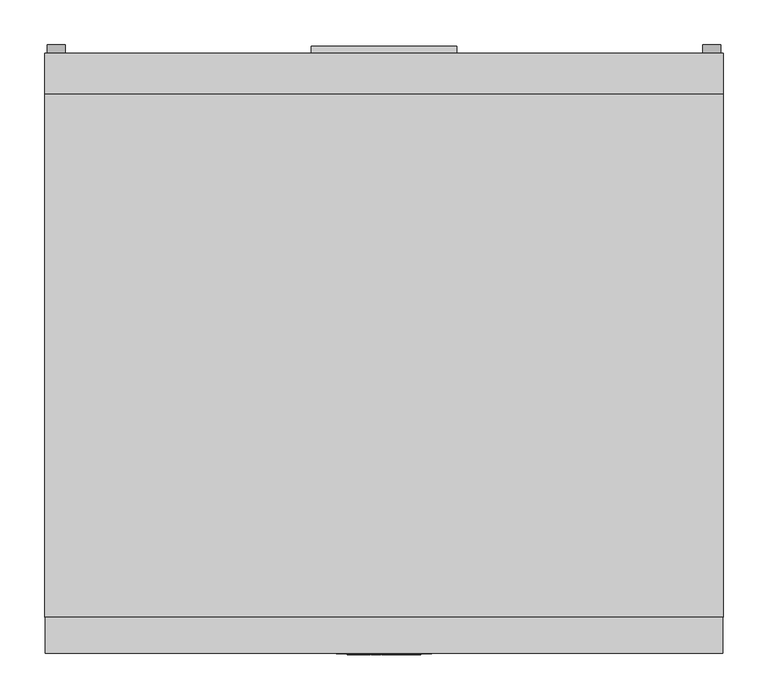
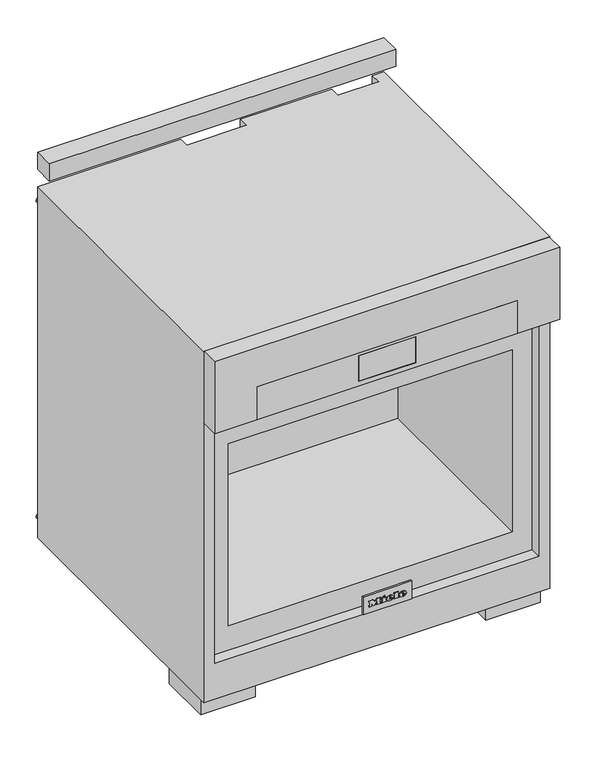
"""IFC4 building model written with IfcOpenShell, lengths in millimetres: proxy geometry, 11791530_USA_HR1724-3G_EDST-CLST : 25172481_USA_11791530_HR1724-3G_EDST-CLST."""

from ifc_helpers import new_model, si_unit, point, frame, frame_2d, origin, origin_with_axes, place, context, project, spatial, polyline, circle_curve, ellipse_curve, trimmed, segment, composite_curve, outline, extrude, faceted_brep, source, transform, mapped, element, save
from ifc_brep_helpers import plane_surface, cylinder_surface, revolved_surface, extruded_surface, advanced_brep


def specialty_equipment_942a387a(model_context):
    return source(origin(), model_context, "Body", "SolidModel", [
        faceted_brep([(380.0, -673.0, 862.0), (-380.0, -673.0, 862.0), (-380.0, -673.0, 695.0), (-287.0, -673.0, 695.0), (-287.0, -673.0, 772.0), (287.0, -673.0, 772.0), (287.0, -673.0, 695.0), (380.0, -673.0, 695.0), (380.0, -633.0, 862.0), (380.0, -633.0, 695.0), (-380.0, -633.0, 695.0), (-380.0, -633.0, 862.0), (287.0, -666.7, 695.0), (-287.0, -666.7, 695.0), (287.0, -666.7, 772.0), (-287.0, -666.7, 772.0)], [[[0, 1, 2, 3, 4, 5, 6, 7]], [[8, 9, 10, 11]], [[0, 7, 9, 8]], [[10, 9, 7, 6, 12, 13, 3, 2]], [[2, 1, 11, 10]], [[1, 0, 8, 11]], [[14, 15, 13, 12]], [[14, 12, 6, 5]], [[13, 15, 4, 3]], [[15, 14, 5, 4]]]),
        extrude(outline(polyline([(772.0, 287.0), (772.0, -287.0), (695.0, -287.0), (695.0, 287.0), (772.0, 287.0)]), holes=[polyline([(765.0, 62.5), (705.0, 62.5), (705.0, -62.5), (765.0, -62.5), (765.0, 62.5)])]), frame((0.0, -672.5, 0.0), z_axis=(0.0, 1.0, 0.0), x_axis=(0.0, 0.0, 1.0)), (0.0, 0.0, 1.0), 5.8),
        extrude(outline(polyline([(-62.5, -671.0), (62.5, -671.0), (62.5, -672.0), (-62.5, -672.0), (-62.5, -671.0)])), frame((0.0, 0.0, 705.0), z_axis=(0.0, 0.0, 1.0), x_axis=(1.0, 0.0, 0.0)), (0.0, 0.0, 1.0), 60.0),
        extrude(outline(polyline([(-254.0, -489.0), (-254.0, -609.0), (-374.0, -609.0), (-374.0, -489.0), (-254.0, -489.0)])), origin_with_axes(), (0.0, 0.0, 1.0), 45.0),
        extrude(outline(polyline([(374.0, -489.0), (374.0, -609.0), (254.0, -609.0), (254.0, -489.0), (374.0, -489.0)])), origin_with_axes(), (0.0, 0.0, 1.0), 45.0),
        extrude(outline(composite_curve([segment(trimmed(circle_curve(frame_2d((-152.0, 39.6862697)), 39.6862697), [point((-112.6710759, 45.0))], [point((-191.3289241, 45.0))], False, "CARTESIAN"), True, "CONTINUOUS"), segment(polyline([(-191.3289241, 45.0), (-112.6710759, 45.0)]), True, "CONTINUOUS")], self_intersect=False)), frame((-234.0, 0.0, 0.0), z_axis=(1.0, 0.0, 0.0), x_axis=(0.0, 1.0, 0.0)), (0.0, 0.0, 1.0), 28.0),
        extrude(outline(composite_curve([segment(trimmed(circle_curve(frame_2d((-304.0, -35.0)), 7.5), [point((-311.5, -35.0))], [point((-296.5, -35.0))], False, "CARTESIAN"), True, "CONTINUOUS"), segment(trimmed(circle_curve(frame_2d((-304.0, -35.0)), 7.5), [point((-296.5, -35.0))], [point((-311.5, -35.0))], False, "CARTESIAN"), True, "CONTINUOUS")], self_intersect=False)), frame((0.0, 0.0, 754.0), z_axis=(0.0, 0.0, 1.0), x_axis=(1.0, 0.0, 0.0)), (0.0, 0.0, 1.0), 30.0),
        extrude(outline(composite_curve([segment(trimmed(circle_curve(frame_2d((239.0, -44.0)), 7.5), [point((239.0, -51.5))], [point((239.0, -36.5))], False, "CARTESIAN"), True, "CONTINUOUS"), segment(trimmed(circle_curve(frame_2d((239.0, -44.0)), 7.5), [point((239.0, -36.5))], [point((239.0, -51.5))], False, "CARTESIAN"), True, "CONTINUOUS")], self_intersect=False)), frame((0.0, 0.0, 102.0), z_axis=(0.0, 0.0, 1.0), x_axis=(1.0, 0.0, 0.0)), (0.0, 0.0, 1.0), 30.0),
        extrude(outline(polyline([(246.4261097, -48.2846028), (239.1553153, -48.2846028), (239.1553153, -47.0259878), (245.1324687, -47.0259878), (245.1324687, -44.0398896), (239.4699511, -44.0398896), (239.4699511, -42.7868997), (245.1324687, -42.7868997), (245.1324687, -39.484481), (239.0234692, -39.484481), (239.0234692, -38.223126), (246.4261097, -38.223126), (246.4261097, -48.2846028)])), frame((0.0, 0.0, 101.0), z_axis=(0.0, 0.0, 1.0), x_axis=(1.0, 0.0, 0.0)), (0.0, 0.0, 1.0), 1.0),
        extrude(outline(polyline([(237.0939455, -48.2781045), (230.9083542, -48.2781045), (230.9083542, -47.0259878), (235.9083542, -47.0259878), (235.9083542, -38.223126), (237.0939455, -38.223126), (237.0939455, -48.2781045)])), frame((0.0, 0.0, 101.0), z_axis=(0.0, 0.0, 1.0), x_axis=(1.0, 0.0, 0.0)), (0.0, 0.0, 1.0), 1.0),
        faceted_brep([(356.0, -608.0, 695.0), (-356.0, -608.0, 695.0), (-356.0, -608.0, 128.0), (356.0, -608.0, 128.0), (312.0, -608.0, 608.0), (312.0, -608.0, 185.0), (-312.0, -608.0, 185.0), (-312.0, -608.0, 608.0), (356.0, -633.0, 128.0), (356.0, -633.0, 695.0), (-356.0, -633.0, 128.0), (-356.0, -633.0, 695.0), (-381.0, 0.0, 862.0), (-381.0, -633.0, 862.0), (381.0, -633.0, 862.0), (381.0, 0.0, 862.0), (356.0, 0.0, 862.0), (356.0, -23.0, 862.0), (266.0, -23.0, 862.0), (266.0, 0.0, 862.0), (65.0, 0.0, 862.0), (65.0, -23.0, 862.0), (-66.0, -23.0, 862.0), (-66.0, 0.0, 862.0), (381.0, 0.0, 45.0), (381.0, -633.0, 45.0), (-381.0, -633.0, 45.0), (-381.0, 0.0, 45.0), (-356.0, 0.0, 45.0), (-356.0, -75.0, 45.0), (356.0, -75.0, 45.0), (356.0, 0.0, 45.0), (266.0, 0.0, 132.0), (65.0, 0.0, 132.0), (-66.0, 0.0, 132.0), (-270.0, 0.0, 132.0), (-270.0, 0.0, 784.0), (-335.0, 0.0, 784.0), (-335.0, 0.0, 132.0), (-356.0, 0.0, 132.0), (312.0, -173.0, 608.0), (-312.0, -173.0, 608.0), (-312.0, -173.0, 185.0), (312.0, -173.0, 185.0), (-356.0, -75.0, 132.0), (356.0, -75.0, 132.0), (-335.0, -73.0, 132.0), (-270.0, -73.0, 132.0), (-66.0, -23.0, 132.0), (65.0, -23.0, 132.0), (266.0, -23.0, 132.0), (356.0, -23.0, 132.0), (-335.0, -73.0, 784.0), (-270.0, -73.0, 784.0)], [[[0, 1, 2, 3], [4, 5, 6, 7]], [[0, 3, 8, 9]], [[3, 2, 10, 8]], [[2, 1, 11, 10]], [[1, 0, 9, 11]], [[12, 13, 14, 15, 16, 17, 18, 19, 20, 21, 22, 23]], [[24, 25, 26, 27, 28, 29, 30, 31]], [[20, 19, 32, 33]], [[15, 24, 31, 16]], [[27, 12, 23, 34, 35, 36, 37, 38, 39, 28]], [[13, 12, 27, 26]], [[14, 13, 26, 25], [9, 8, 10, 11]], [[15, 14, 25, 24]], [[40, 41, 42, 43]], [[40, 43, 5, 4]], [[43, 42, 6, 5]], [[42, 41, 7, 6]], [[41, 40, 4, 7]], [[44, 45, 30, 29]], [[45, 44, 39, 38, 46, 47, 35, 34, 48, 49, 33, 32, 50, 51]], [[30, 45, 51, 17, 16, 31]], [[39, 44, 29, 28]], [[52, 53, 47, 46]], [[53, 52, 37, 36]], [[53, 36, 35, 47]], [[37, 52, 46, 38]], [[17, 51, 50, 18]], [[21, 49, 48, 22]], [[49, 21, 20, 33]], [[22, 48, 34, 23]], [[18, 50, 32, 19]]]),
        extrude(outline(composite_curve([segment(polyline([(-301.0941465, -34.8216074), (-297.0193946, -34.8216074), (-297.0193946, -36.0727848), (-299.8300756, -36.0727848), (-299.8300756, -37.8953779), (-298.5547934, -38.5734575), (-296.8554891, -38.8730907)]), True, "CONTINUOUS"), segment(trimmed(circle_curve(frame_2d((-296.7763582, -35.1835188)), 3.6904203), [point((-296.8554891, -38.8730907))], [point((-293.0917956, -34.975672))], True, "CARTESIAN"), True, "CONTINUOUS"), segment(trimmed(circle_curve(frame_2d((-297.2742118, -35.2116028)), 4.1890654), [point((-293.0917956, -34.975672))], [point((-296.8924604, -31.0399683))], True, "CARTESIAN"), True, "CONTINUOUS"), segment(trimmed(circle_curve(frame_2d((-297.1434541, -33.7827322)), 2.7542243), [point((-296.8924604, -31.0399683))], [point((-299.2311401, -31.9862582))], True, "CARTESIAN"), True, "CONTINUOUS"), segment(polyline([(-299.2311401, -31.9862582), (-299.7913432, -33.1348449), (-300.9545959, -32.808521), (-300.2222817, -31.1459412)]), True, "CONTINUOUS"), segment(trimmed(circle_curve(frame_2d((-297.0056573, -34.3038983)), 4.5077007), [point((-300.2222817, -31.1459412))], [point((-296.8478593, -29.7989604))], False, "CARTESIAN"), True, "CONTINUOUS"), segment(trimmed(circle_curve(frame_2d((-297.0297107, -35.0029797)), 5.2071956), [point((-296.8478593, -29.7989604))], [point((-291.8225151, -35.0029797))], False, "CARTESIAN"), True, "CONTINUOUS"), segment(trimmed(circle_curve(frame_2d((-297.0187023, -34.9634409)), 5.1963376), [point((-291.8225151, -35.0029797))], [point((-297.0187023, -40.1597785))], False, "CARTESIAN"), True, "CONTINUOUS"), segment(polyline([(-297.0187023, -40.1597785), (-299.0821579, -39.7823822), (-301.0941465, -38.5734575), (-301.0941465, -34.8216074)]), True, "CONTINUOUS")], self_intersect=False)), frame((0.0, 0.0, 753.0), z_axis=(0.0, 0.0, 1.0), x_axis=(1.0, 0.0, 0.0)), (0.0, 0.0, 1.0), 1.0),
        extrude(outline(composite_curve([segment(polyline([(-311.4581842, -37.6489066), (-310.202206, -37.8031213), (-311.1593436, -39.5606642)]), True, "CONTINUOUS"), segment(trimmed(circle_curve(frame_2d((-313.3057471, -36.6354063)), 3.6282478), [point((-311.1593436, -39.5606642))], [point((-314.8962663, -39.8964538))], False, "CARTESIAN"), True, "CONTINUOUS"), segment(trimmed(circle_curve(frame_2d((-313.7731504, -37.593725)), 2.5620205), [point((-314.8962663, -39.8964538))], [point((-316.32893, -37.7724425))], False, "CARTESIAN"), True, "CONTINUOUS"), segment(trimmed(circle_curve(frame_2d((-314.617737, -37.6527843)), 1.7153715), [point((-316.32893, -37.7724425))], [point((-315.147816, -36.021369))], False, "CARTESIAN"), True, "CONTINUOUS"), segment(polyline([(-315.147816, -36.021369), (-313.3069947, -35.4232499), (-311.987673, -33.9770867)]), True, "CONTINUOUS"), segment(trimmed(circle_curve(frame_2d((-313.1408399, -36.351197)), 2.6393548), [point((-311.987673, -33.9770867))], [point((-314.2940069, -33.9770867))], True, "CARTESIAN"), True, "CONTINUOUS"), segment(polyline([(-314.2940069, -33.9770867), (-314.7553884, -34.6611129), (-316.0084996, -34.5072502), (-315.5756304, -33.3795875)]), True, "CONTINUOUS"), segment(trimmed(circle_curve(frame_2d((-312.9527143, -36.6576461)), 4.1982564), [point((-315.5756304, -33.3795875))], [point((-313.0505395, -32.4605295))], False, "CARTESIAN"), True, "CONTINUOUS"), segment(trimmed(circle_curve(frame_2d((-312.9805679, -35.4626064)), 3.0028922), [point((-313.0505395, -32.4605295))], [point((-310.5718203, -33.6694816))], False, "CARTESIAN"), True, "CONTINUOUS"), segment(trimmed(circle_curve(frame_2d((-312.4380028, -34.5301363)), 2.0550823), [point((-310.5718203, -33.6694816))], [point((-311.4341096, -36.323335))], False, "CARTESIAN"), True, "CONTINUOUS"), segment(polyline([(-311.4341096, -36.323335), (-313.3494535, -36.9828408), (-315.0597255, -37.9076387), (-314.6768706, -38.6156702)]), True, "CONTINUOUS"), segment(trimmed(circle_curve(frame_2d((-313.3695779, -35.6018954)), 3.2850956), [point((-314.6768706, -38.6156702))], [point((-312.0622852, -38.6156702))], True, "CARTESIAN"), True, "CONTINUOUS"), segment(polyline([(-312.0622852, -38.6156702), (-311.4581842, -37.6489066)]), True, "CONTINUOUS")], self_intersect=False)), frame((0.0, 0.0, 753.0), z_axis=(0.0, 0.0, 1.0), x_axis=(1.0, 0.0, 0.0)), (0.0, 0.0, 1.0), 1.0),
        extrude(outline(composite_curve([segment(polyline([(-308.0009008, -40.0), (-309.2635363, -40.0), (-309.0191787, -38.9415709), (-308.8778726, -34.1117735)]), True, "CONTINUOUS"), segment(trimmed(circle_curve(frame_2d((-307.387549, -34.1553762)), 1.4909613), [point((-308.8778726, -34.1117735))], [point((-307.6381402, -32.6856246))], False, "CARTESIAN"), True, "CONTINUOUS"), segment(trimmed(circle_curve(frame_2d((-306.1175682, -37.7832301)), 5.3195602), [point((-307.6381402, -32.6856246))], [point((-304.440667, -32.7348914))], False, "CARTESIAN"), True, "CONTINUOUS"), segment(polyline([(-304.440667, -32.7348914), (-303.3643767, -33.4338425), (-302.8177226, -34.6616478), (-304.0710839, -34.8155412), (-304.6628147, -33.9704619)]), True, "CONTINUOUS"), segment(trimmed(circle_curve(frame_2d((-305.889909, -36.6278559)), 2.9270297), [point((-304.6628147, -33.9704619))], [point((-307.335883, -34.0829271))], True, "CARTESIAN"), True, "CONTINUOUS"), segment(polyline([(-307.335883, -34.0829271), (-307.6819155, -35.289686), (-304.4250607, -35.9227545)]), True, "CONTINUOUS"), segment(trimmed(circle_curve(frame_2d((-304.8373847, -38.0439776)), 2.1609254), [point((-304.4250607, -35.9227545))], [point((-303.2872437, -39.5495212))], False, "CARTESIAN"), True, "CONTINUOUS"), segment(trimmed(circle_curve(frame_2d((-305.2230106, -36.6941434)), 3.4496922), [point((-303.2872437, -39.5495212))], [point((-306.4810512, -39.9062626))], False, "CARTESIAN"), True, "CONTINUOUS"), segment(polyline([(-306.4810512, -39.9062626), (-307.6943945, -39.0566705), (-308.0009008, -40.0)]), True, "CONTINUOUS")], self_intersect=False), holes=[composite_curve([segment(polyline([(-307.6808047, -36.7241112), (-307.4778117, -37.8753414), (-306.6808418, -38.5929363), (-305.3846505, -38.8921857)]), True, "CONTINUOUS"), segment(trimmed(circle_curve(frame_2d((-305.1641539, -37.9371101)), 0.980198), [point((-305.3846505, -38.8921857))], [point((-304.5826105, -37.148063))], True, "CARTESIAN"), True, "CONTINUOUS"), segment(polyline([(-304.5826105, -37.148063), (-305.683896, -36.9339948), (-307.6808047, -36.7241112)]), True, "CONTINUOUS")], self_intersect=False)]), frame((0.0, 0.0, 753.0), z_axis=(0.0, 0.0, 1.0), x_axis=(1.0, 0.0, 0.0)), (0.0, 0.0, 1.0), 1.0),
        extrude(outline(composite_curve([segment(trimmed(circle_curve(frame_2d((-152.0, 39.6862697)), 39.6862697), [point((-112.6710759, 45.0))], [point((-191.3289241, 45.0))], False, "CARTESIAN"), True, "CONTINUOUS"), segment(polyline([(-191.3289241, 45.0), (-112.6710759, 45.0)]), True, "CONTINUOUS")], self_intersect=False)), frame((206.0, 0.0, 0.0), z_axis=(1.0, 0.0, 0.0), x_axis=(0.0, 1.0, 0.0)), (0.0, 0.0, 1.0), 28.0),
        extrude(outline(polyline([(-81.5, 8.0), (81.5, 8.0), (81.5, 0.0), (-81.5, 0.0), (-81.5, 8.0)])), frame((0.0, 0.0, 559.0), z_axis=(0.0, 0.0, 1.0), x_axis=(1.0, 0.0, 0.0)), (0.0, 0.0, 1.0), 237.0),
        extrude(outline(polyline([(275.0, -23.0), (344.0, -23.0), (344.0, -53.0), (275.0, -53.0), (275.0, -23.0)])), frame((0.0, 0.0, 117.0), z_axis=(0.0, 0.0, 1.0), x_axis=(1.0, 0.0, 0.0)), (0.0, 0.0, 1.0), 15.0),
        extrude(outline(polyline([(-258.0, 0.0), (170.0, 0.0), (170.0, -39.0), (-258.0, -39.0), (-258.0, 0.0)])), frame((0.0, 0.0, 117.0), z_axis=(0.0, 0.0, 1.0), x_axis=(1.0, 0.0, 0.0)), (0.0, 0.0, 1.0), 15.0),
        extrude(outline(composite_curve([segment(trimmed(circle_curve(frame_2d((822.0, 368.0)), 10.0), [point((822.0, 378.0))], [point((822.0, 358.0))], False, "CARTESIAN"), True, "CONTINUOUS"), segment(trimmed(circle_curve(frame_2d((822.0, 368.0)), 10.0), [point((822.0, 358.0))], [point((822.0, 378.0))], False, "CARTESIAN"), True, "CONTINUOUS")], self_intersect=False)), frame((0.0, 0.0, 0.0), z_axis=(0.0, 1.0, 0.0), x_axis=(0.0, 0.0, 1.0)), (0.0, 0.0, 1.0), 10.0),
        extrude(outline(composite_curve([segment(trimmed(circle_curve(frame_2d((87.0, 368.0)), 10.0), [point((87.0, 378.0))], [point((87.0, 358.0))], False, "CARTESIAN"), True, "CONTINUOUS"), segment(trimmed(circle_curve(frame_2d((87.0, 368.0)), 10.0), [point((87.0, 358.0))], [point((87.0, 378.0))], False, "CARTESIAN"), True, "CONTINUOUS")], self_intersect=False)), frame((0.0, 0.0, 0.0), z_axis=(0.0, 1.0, 0.0), x_axis=(0.0, 0.0, 1.0)), (0.0, 0.0, 1.0), 10.0),
        extrude(outline(composite_curve([segment(trimmed(circle_curve(frame_2d((822.0, -368.0)), 10.0), [point((822.0, -358.0))], [point((822.0, -378.0))], False, "CARTESIAN"), True, "CONTINUOUS"), segment(trimmed(circle_curve(frame_2d((822.0, -368.0)), 10.0), [point((822.0, -378.0))], [point((822.0, -358.0))], False, "CARTESIAN"), True, "CONTINUOUS")], self_intersect=False)), frame((0.0, 0.0, 0.0), z_axis=(0.0, 1.0, 0.0), x_axis=(0.0, 0.0, 1.0)), (0.0, 0.0, 1.0), 10.0),
        extrude(outline(composite_curve([segment(trimmed(circle_curve(frame_2d((87.0, -368.0)), 10.0), [point((87.0, -358.0))], [point((87.0, -378.0))], False, "CARTESIAN"), True, "CONTINUOUS"), segment(trimmed(circle_curve(frame_2d((87.0, -368.0)), 10.0), [point((87.0, -378.0))], [point((87.0, -358.0))], False, "CARTESIAN"), True, "CONTINUOUS")], self_intersect=False)), frame((0.0, 0.0, 0.0), z_axis=(0.0, 1.0, 0.0), x_axis=(0.0, 0.0, 1.0)), (0.0, 0.0, 1.0), 10.0),
        advanced_brep(
        [(32.17, -675.0, 177.1995), (32.17, -675.0, 178.563), (41.2015, -675.0, 178.563), (25.4875, -675.0, 178.563), (29.2, -675.0, 174.0), (40.972, -675.0, 177.1995), (36.895, -675.0, 177.1995), (33.682, -675.0, 175.6875), (32.17, -675.0, 180.291), (32.17, -675.0, 181.7625), (34.4785, -675.0, 181.7625), (34.4785, -675.0, 180.291), (32.17, -674.0, 177.1995), (33.682, -674.0, 175.6875), (36.895, -674.0, 177.1995), (40.972, -674.0, 177.1995), (29.2, -674.0, 174.0), (25.4875, -674.0, 178.563), (41.2015, -674.0, 178.563), (32.17, -674.0, 178.563), (32.17, -674.0, 180.291), (34.4785, -674.0, 180.291), (34.4785, -674.0, 181.7625), (32.17, -674.0, 181.7625)],
        [
            (0, 1),
            (1, 2),
            (2, 3, ellipse_curve(frame((33.3445, -675.0, 178.563), z_axis=(0.0, -1.0, 0.0), x_axis=(-1.0, 0.0, 0.0)), 7.857, 6.4935)),
            (3, 4, circle_curve(frame((30.7120736, -675.0, 179.022), z_axis=(0.0, -1.0, 0.0), x_axis=(0.0, 0.0, -1.0)), 5.2446974)),
            (4, 5, circle_curve(frame((33.1872142, -675.0, 182.586), z_axis=(0.0, -1.0, 0.0), x_axis=(0.0, 0.0, -1.0)), 9.46664)),
            (5, 6),
            (6, 7, circle_curve(frame((34.3419118, -675.0, 178.455), z_axis=(0.0, 1.0, 0.0), x_axis=(0.0, 0.0, -1.0)), 2.8450905)),
            (7, 0, circle_curve(frame((33.682, -675.0, 177.1995), z_axis=(0.0, 1.0, 0.0), x_axis=(0.0, 0.0, -1.0)), 1.512)),
            (8, 9),
            (9, 10, circle_curve(frame((33.32425, -675.0, 181.7625), z_axis=(0.0, 1.0, 0.0), x_axis=(0.0, 0.0, -1.0)), 1.15425)),
            (10, 11),
            (11, 8),
            (12, 13, circle_curve(frame((33.682, -674.0, 177.1995), z_axis=(0.0, -1.0, 0.0), x_axis=(0.0, 0.0, -1.0)), 1.512)),
            (13, 14, circle_curve(frame((34.3419118, -674.0, 178.455), z_axis=(0.0, -1.0, 0.0), x_axis=(0.0, 0.0, -1.0)), 2.8450905)),
            (14, 15),
            (15, 16, circle_curve(frame((33.1872142, -674.0, 182.586), z_axis=(0.0, 1.0, 0.0), x_axis=(0.0, 0.0, -1.0)), 9.46664)),
            (16, 17, circle_curve(frame((30.7120736, -674.0, 179.022), z_axis=(0.0, 1.0, 0.0), x_axis=(0.0, 0.0, -1.0)), 5.2446974)),
            (17, 18, ellipse_curve(frame((33.3445, -674.0, 178.563), z_axis=(0.0, 1.0, 0.0), x_axis=(-1.0, 0.0, 0.0)), 7.857, 6.4935)),
            (18, 19),
            (19, 12),
            (20, 21),
            (21, 22),
            (22, 23, circle_curve(frame((33.32425, -674.0, 181.7625), z_axis=(0.0, -1.0, 0.0), x_axis=(0.0, 0.0, -1.0)), 1.15425)),
            (23, 20),
            (0, 12),
            (19, 1),
            (18, 2),
            (5, 15),
            (14, 6),
            (17, 3),
            (13, 7),
            (16, 4),
            (8, 20),
            (23, 9),
            (22, 10),
            (21, 11),
        ],
        [
            plane_surface(frame((32.17, -675.0, 178.563), z_axis=(0.0, -1.0, 0.0), x_axis=(0.0, 0.0, 1.0))),
            plane_surface(frame((32.17, -674.0, 178.563), z_axis=(0.0, 1.0, 0.0), x_axis=(0.0, 0.0, -1.0))),
            plane_surface(frame((32.17, -675.0, 177.1995), z_axis=(1.0, 0.0, 0.0), x_axis=(0.0, 1.0, 0.0))),
            plane_surface(frame((32.17, -675.0, 178.563), z_axis=(0.0, 0.0, -1.0), x_axis=(0.0, 1.0, 0.0))),
            plane_surface(frame((40.972, -675.0, 177.1995), z_axis=(0.0, 0.0, 1.0), x_axis=(0.0, 1.0, 0.0))),
            extruded_surface(trimmed(ellipse_curve(frame((33.3445, -673.0, 178.563), z_axis=(0.0, -1.0, 0.0), x_axis=(-1.0, 0.0, 0.0)), 7.857, 6.4935), [point((41.2015, -673.0, 178.563))], [point((25.4875, -673.0, 178.563))], True, "CARTESIAN"), (0.0, -1.0, 0.0), 1.0),
            revolved_surface(polyline([(34.3419118, -674.0, 175.60990950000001), (34.3419118, -675.0, 175.60990950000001)]), (34.3419118, -674.0, 178.455), (0.0, 1.0, 0.0)),
            revolved_surface(polyline([(33.682, -674.0, 175.6875), (33.682, -675.0, 175.6875)]), (33.682, -674.0, 177.1995), (0.0, 1.0, 0.0)),
            cylinder_surface(frame((30.7120736, -674.0, 179.022), z_axis=(0.0, -1.0, 0.0), x_axis=(0.0, 0.0, -1.0)), 5.2446974),
            cylinder_surface(frame((33.1872142, -674.0, 182.586), z_axis=(0.0, -1.0, 0.0), x_axis=(0.0, 0.0, -1.0)), 9.46664),
            plane_surface(frame((32.17, -675.0, 180.291), z_axis=(1.0, 0.0, 0.0), x_axis=(0.0, 1.0, 0.0))),
            revolved_surface(polyline([(33.32425, -674.0, 180.60825), (33.32425, -675.0, 180.60825)]), (33.32425, -674.0, 181.7625), (0.0, 1.0, 0.0)),
            plane_surface(frame((34.4785, -675.0, 181.7625), z_axis=(-1.0, 0.0, 0.0), x_axis=(0.0, 1.0, 0.0))),
            plane_surface(frame((34.4785, -675.0, 180.291), z_axis=(0.0, 0.0, 1.0), x_axis=(0.0, 1.0, 0.0))),
        ],
        [
            (0, [[1, 2, 3, 4, 5, 6, 7, 8], [9, 10, 11, 12]]),
            (1, [[13, 14, 15, 16, 17, 18, 19, 20], [21, 22, 23, 24]]),
            (2, [[-1, 25, -20, 26]]),
            (3, [[-2, -26, -19, 27]]),
            (4, [[-6, 28, -15, 29]]),
            (5, [[-3, -27, -18, 30]]),
            (6, [[-7, -29, -14, 31]]),
            (7, [[-8, -31, -13, -25]]),
            (8, [[-4, -30, -17, 32]]),
            (9, [[-5, -32, -16, -28]]),
            (10, [[-9, 33, -24, 34]]),
            (11, [[-10, -34, -23, 35]]),
            (12, [[-11, -35, -22, 36]]),
            (13, [[-12, -36, -21, -33]]),
        ],
    ),
        advanced_brep(
        [(3.9955, -675.0, 177.1995), (3.9955, -675.0, 178.563), (13.027, -675.0, 178.563), (-2.687, -675.0, 178.563), (1.0255, -675.0, 174.0), (12.7975, -675.0, 177.1995), (8.7205, -675.0, 177.1995), (5.5075, -675.0, 175.6875), (3.9955, -675.0, 180.291), (3.9955, -675.0, 181.7625), (6.304, -675.0, 181.7625), (6.304, -675.0, 180.291), (3.9955, -674.0, 177.1995), (5.5075, -674.0, 175.6875), (8.7205, -674.0, 177.1995), (12.7975, -674.0, 177.1995), (1.0255, -674.0, 174.0), (-2.687, -674.0, 178.563), (13.027, -674.0, 178.563), (3.9955, -674.0, 178.563), (3.9955, -674.0, 180.291), (6.304, -674.0, 180.291), (6.304, -674.0, 181.7625), (3.9955, -674.0, 181.7625)],
        [
            (0, 1),
            (1, 2),
            (2, 3, ellipse_curve(frame((5.17, -675.0, 178.563), z_axis=(0.0, -1.0, 0.0), x_axis=(-1.0, 0.0, 0.0)), 7.857, 6.4935)),
            (3, 4, circle_curve(frame((2.5375736, -675.0, 179.022), z_axis=(0.0, -1.0, 0.0), x_axis=(0.0, 0.0, -1.0)), 5.2446974)),
            (4, 5, circle_curve(frame((5.0127142, -675.0, 182.586), z_axis=(0.0, -1.0, 0.0), x_axis=(0.0, 0.0, -1.0)), 9.46664)),
            (5, 6),
            (6, 7, circle_curve(frame((6.1674118, -675.0, 178.455), z_axis=(0.0, 1.0, 0.0), x_axis=(0.0, 0.0, -1.0)), 2.8450905)),
            (7, 0, circle_curve(frame((5.5075, -675.0, 177.1995), z_axis=(0.0, 1.0, 0.0), x_axis=(0.0, 0.0, -1.0)), 1.512)),
            (8, 9),
            (9, 10, circle_curve(frame((5.14975, -675.0, 181.7625), z_axis=(0.0, 1.0, 0.0), x_axis=(0.0, 0.0, -1.0)), 1.15425)),
            (10, 11),
            (11, 8),
            (12, 13, circle_curve(frame((5.5075, -674.0, 177.1995), z_axis=(0.0, -1.0, 0.0), x_axis=(0.0, 0.0, -1.0)), 1.512)),
            (13, 14, circle_curve(frame((6.1674118, -674.0, 178.455), z_axis=(0.0, -1.0, 0.0), x_axis=(0.0, 0.0, -1.0)), 2.8450905)),
            (14, 15),
            (15, 16, circle_curve(frame((5.0127142, -674.0, 182.586), z_axis=(0.0, 1.0, 0.0), x_axis=(0.0, 0.0, -1.0)), 9.46664)),
            (16, 17, circle_curve(frame((2.5375736, -674.0, 179.022), z_axis=(0.0, 1.0, 0.0), x_axis=(0.0, 0.0, -1.0)), 5.2446974)),
            (17, 18, ellipse_curve(frame((5.17, -674.0, 178.563), z_axis=(0.0, 1.0, 0.0), x_axis=(-1.0, 0.0, 0.0)), 7.857, 6.4935)),
            (18, 19),
            (19, 12),
            (20, 21),
            (21, 22),
            (22, 23, circle_curve(frame((5.14975, -674.0, 181.7625), z_axis=(0.0, -1.0, 0.0), x_axis=(0.0, 0.0, -1.0)), 1.15425)),
            (23, 20),
            (0, 12),
            (19, 1),
            (18, 2),
            (5, 15),
            (14, 6),
            (17, 3),
            (13, 7),
            (16, 4),
            (8, 20),
            (23, 9),
            (22, 10),
            (21, 11),
        ],
        [
            plane_surface(frame((3.9955, -675.0, 178.563), z_axis=(0.0, -1.0, 0.0), x_axis=(0.0, 0.0, 1.0))),
            plane_surface(frame((3.9955, -674.0, 178.563), z_axis=(0.0, 1.0, 0.0), x_axis=(0.0, 0.0, -1.0))),
            plane_surface(frame((3.9955, -675.0, 177.1995), z_axis=(1.0, 0.0, 0.0), x_axis=(0.0, 1.0, 0.0))),
            plane_surface(frame((3.9955, -675.0, 178.563), z_axis=(0.0, 0.0, -1.0), x_axis=(0.0, 1.0, 0.0))),
            plane_surface(frame((12.7975, -675.0, 177.1995), z_axis=(0.0, 0.0, 1.0), x_axis=(0.0, 1.0, 0.0))),
            extruded_surface(trimmed(ellipse_curve(frame((5.17, -673.0, 178.563), z_axis=(0.0, -1.0, 0.0), x_axis=(-1.0, 0.0, 0.0)), 7.857, 6.4935), [point((13.027, -673.0, 178.563))], [point((-2.687, -673.0, 178.563))], True, "CARTESIAN"), (0.0, -1.0, 0.0), 1.0),
            revolved_surface(polyline([(6.1674118, -674.0, 175.60990950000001), (6.1674118, -675.0, 175.60990950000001)]), (6.1674118, -674.0, 178.455), (0.0, 1.0, 0.0)),
            revolved_surface(polyline([(5.5075, -674.0, 175.6875), (5.5075, -675.0, 175.6875)]), (5.5075, -674.0, 177.1995), (0.0, 1.0, 0.0)),
            cylinder_surface(frame((2.5375736, -674.0, 179.022), z_axis=(0.0, -1.0, 0.0), x_axis=(0.0, 0.0, -1.0)), 5.2446974),
            cylinder_surface(frame((5.0127142, -674.0, 182.586), z_axis=(0.0, -1.0, 0.0), x_axis=(0.0, 0.0, -1.0)), 9.46664),
            plane_surface(frame((3.9955, -675.0, 180.291), z_axis=(1.0, 0.0, 0.0), x_axis=(0.0, 1.0, 0.0))),
            revolved_surface(polyline([(5.14975, -674.0, 180.60825), (5.14975, -675.0, 180.60825)]), (5.14975, -674.0, 181.7625), (0.0, 1.0, 0.0)),
            plane_surface(frame((6.304, -675.0, 181.7625), z_axis=(-1.0, 0.0, 0.0), x_axis=(0.0, 1.0, 0.0))),
            plane_surface(frame((6.304, -675.0, 180.291), z_axis=(0.0, 0.0, 1.0), x_axis=(0.0, 1.0, 0.0))),
        ],
        [
            (0, [[1, 2, 3, 4, 5, 6, 7, 8], [9, 10, 11, 12]]),
            (1, [[13, 14, 15, 16, 17, 18, 19, 20], [21, 22, 23, 24]]),
            (2, [[-1, 25, -20, 26]]),
            (3, [[-2, -26, -19, 27]]),
            (4, [[-6, 28, -15, 29]]),
            (5, [[-3, -27, -18, 30]]),
            (6, [[-7, -29, -14, 31]]),
            (7, [[-8, -31, -13, -25]]),
            (8, [[-4, -30, -17, 32]]),
            (9, [[-5, -32, -16, -28]]),
            (10, [[-9, 33, -24, 34]]),
            (11, [[-10, -34, -23, 35]]),
            (12, [[-11, -35, -22, 36]]),
            (13, [[-12, -36, -21, -33]]),
        ],
    ),
        extrude(outline(polyline([(186.7035, -10.76), (184.5165, -9.734), (186.6495, -5.1575), (188.8365, -6.17), (186.7035, -10.76)])), frame((0.0, -675.0, 0.0), z_axis=(0.0, 1.0, 0.0), x_axis=(0.0, 0.0, 1.0)), (0.0, 0.0, 1.0), 1.0),
        extrude(outline(polyline([(184.2195, -14.0945), (181.803, -14.0945), (181.803, -12.488), (176.268, -12.488), (176.268, -14.0945), (174.0, -14.0945), (174.0, -3.443), (176.268, -3.443), (176.268, -5.009), (184.2195, -5.009), (184.2195, -14.0945)])), frame((0.0, -675.0, 0.0), z_axis=(0.0, 1.0, 0.0), x_axis=(0.0, 0.0, 1.0)), (0.0, 0.0, 1.0), 1.0),
        extrude(outline(polyline([(185.2995, 13.783), (185.2995, 15.403), (176.268, 15.403), (176.268, 13.783), (174.0, 13.783), (174.0, 24.7315), (176.268, 24.7315), (176.268, 23.071), (187.5, 23.071), (187.5, 13.783), (185.2995, 13.783)])), frame((0.0, -675.0, 0.0), z_axis=(0.0, 1.0, 0.0), x_axis=(0.0, 0.0, 1.0)), (0.0, 0.0, 1.0), 1.0),
        extrude(outline(polyline([(185.2995, -41.0), (185.2995, -39.3665), (176.268, -39.3665), (176.268, -41.0), (174.0, -41.0), (174.0, -35.06), (176.268, -35.06), (176.268, -36.68), (181.9756247, -36.68), (174.0, -30.6455), (182.2527223, -24.584), (176.268, -24.584), (176.268, -26.2445), (174.0, -26.2445), (174.0, -15.4715), (176.268, -15.4715), (176.268, -17.186), (185.2995, -17.186), (185.2995, -15.4715), (187.5, -15.4715), (187.5, -23.693), (182.4375, -27.635), (187.5, -31.5905), (187.5, -41.0), (185.2995, -41.0)])), frame((0.0, -675.0, 0.0), z_axis=(0.0, 1.0, 0.0), x_axis=(0.0, 0.0, 1.0)), (0.0, 0.0, 1.0), 1.0),
        extrude(outline(polyline([(381.0, 0.0), (381.0, -45.0), (-381.0, -45.0), (-381.0, 0.0), (381.0, 0.0)])), frame((0.0, 0.0, 902.0), z_axis=(0.0, 0.0, 1.0), x_axis=(1.0, 0.0, 0.0)), (0.0, 0.0, 1.0), 40.0),
        extrude(outline(composite_curve([segment(polyline([(-670.0, 160.0), (-673.5, 160.0)]), True, "CONTINUOUS"), segment(trimmed(circle_curve(frame_2d((-464.0137328, 180.5)), 210.4869263), [point((-673.5, 160.0))], [point((-673.5, 201.0))], False, "CARTESIAN"), True, "CONTINUOUS"), segment(polyline([(-673.5, 201.0), (-670.0, 201.0), (-670.0, 160.0)]), True, "CONTINUOUS")], self_intersect=False)), frame((-53.5, 0.0, 0.0), z_axis=(1.0, 0.0, 0.0), x_axis=(0.0, 1.0, 0.0)), (0.0, 0.0, 1.0), 107.0),
    ])


if __name__ == "__main__":
    model = new_model("IFC4")
    model_context = context("Model", 3, world=origin())
    ifc_project = project(units=[si_unit("LENGTHUNIT", "METRE", prefix="MILLI")], contexts=[model_context])
    site = spatial("IfcSite", under=ifc_project)
    building = spatial("IfcBuilding", under=site)
    placement = place(None, origin())
    specialty_equipment_shape = specialty_equipment_942a387a(model_context)
    element("IfcBuildingElementProxy", 1, Name="11791530_USA_HR1724-3G_EDST-CLST : 25172481_USA_11791530_HR1724-3G_EDST-CLST", ObjectType="11791530_USA_HR1724-3G_EDST-CLST : 25172481_USA_11791530_HR1724-3G_EDST-CLST", at=placement, inside=building, context=model_context, shape_type="MappedRepresentation", body=[
        mapped(specialty_equipment_shape, transform((0.0, 0.0, 0.0), x_axis=(1.0, 0.0, 0.0), y_axis=(0.0, 1.0, 0.0), z_axis=(0.0, 0.0, 1.0))),
    ])
    save(model, "model.ifc")
